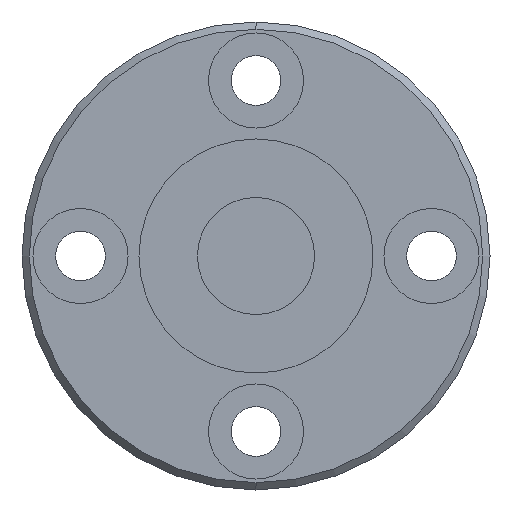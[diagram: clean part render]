
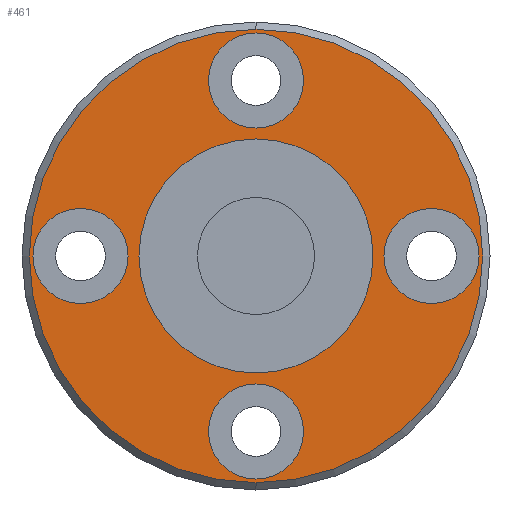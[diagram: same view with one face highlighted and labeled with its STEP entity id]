
A CAD part, left-side view. The second image highlights one B-rep face of the part: STEP entity #461.
In plain terms, the highlighted planar face has unit normal (-1, 0, 0).
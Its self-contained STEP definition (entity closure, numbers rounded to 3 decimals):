
#5 = DIRECTION ( 'NONE',  ( 0., 0., 1. ) ) ;
#29 = EDGE_CURVE ( 'NONE', #2390, #2367, #1250, .T. ) ;
#31 = CARTESIAN_POINT ( 'NONE',  ( 0., 12., 3.25 ) ) ;
#62 = AXIS2_PLACEMENT_3D ( 'NONE', #1221, #98, #324 ) ;
#98 = DIRECTION ( 'NONE',  ( -1., 0., 0. ) ) ;
#101 = CIRCLE ( 'NONE', #419, 3.25 ) ;
#107 = ORIENTED_EDGE ( 'NONE', *, *, #29, .F. ) ;
#131 = VERTEX_POINT ( 'NONE', #743 ) ;
#141 = AXIS2_PLACEMENT_3D ( 'NONE', #348, #754, #2266 ) ;
#145 = CIRCLE ( 'NONE', #2309, 8. ) ;
#181 = CIRCLE ( 'NONE', #62, 3.25 ) ;
#206 = AXIS2_PLACEMENT_3D ( 'NONE', #829, #2176, #796 ) ;
#301 = AXIS2_PLACEMENT_3D ( 'NONE', #1199, #1012, #2305 ) ;
#308 = EDGE_CURVE ( 'NONE', #2367, #2390, #145, .T. ) ;
#310 = VERTEX_POINT ( 'NONE', #1380 ) ;
#324 = DIRECTION ( 'NONE',  ( 0., 1., 0. ) ) ;
#348 = CARTESIAN_POINT ( 'NONE',  ( 0., 16., 0. ) ) ;
#354 = ORIENTED_EDGE ( 'NONE', *, *, #2365, .F. ) ;
#361 = CARTESIAN_POINT ( 'NONE',  ( 0., 0., 8.75 ) ) ;
#367 = VERTEX_POINT ( 'NONE', #361 ) ;
#419 = AXIS2_PLACEMENT_3D ( 'NONE', #2289, #1131, #1471 ) ;
#426 = DIRECTION ( 'NONE',  ( 0., 0., -1. ) ) ;
#438 = CARTESIAN_POINT ( 'NONE',  ( 0., 0., 15.25 ) ) ;
#461 = ADVANCED_FACE ( 'NONE', ( #529, #942, #2063, #1691, #2045, #1705 ), #1676, .F. ) ;
#464 = CARTESIAN_POINT ( 'NONE',  ( 0., -12., 0. ) ) ;
#511 = VERTEX_POINT ( 'NONE', #1295 ) ;
#518 = ORIENTED_EDGE ( 'NONE', *, *, #539, .F. ) ;
#529 = FACE_OUTER_BOUND ( 'NONE', #586, .T. ) ;
#539 = EDGE_CURVE ( 'NONE', #511, #1623, #1283, .T. ) ;
#551 = EDGE_CURVE ( 'NONE', #131, #2126, #2013, .T. ) ;
#570 = EDGE_LOOP ( 'NONE', ( #671, #107 ) ) ;
#586 = EDGE_LOOP ( 'NONE', ( #1218, #869 ) ) ;
#601 = CARTESIAN_POINT ( 'NONE',  ( 0., 0., 0. ) ) ;
#615 = CARTESIAN_POINT ( 'NONE',  ( 0., -12., -3.25 ) ) ;
#658 = AXIS2_PLACEMENT_3D ( 'NONE', #601, #2337, #1779 ) ;
#671 = ORIENTED_EDGE ( 'NONE', *, *, #308, .F. ) ;
#693 = VERTEX_POINT ( 'NONE', #438 ) ;
#702 = DIRECTION ( 'NONE',  ( -1., 0., 0. ) ) ;
#703 = EDGE_CURVE ( 'NONE', #2126, #131, #2054, .T. ) ;
#743 = CARTESIAN_POINT ( 'NONE',  ( 0., 0., -15.5 ) ) ;
#754 = DIRECTION ( 'NONE',  ( 1., 0., 0. ) ) ;
#796 = DIRECTION ( 'NONE',  ( 0., 0., 1. ) ) ;
#799 = EDGE_CURVE ( 'NONE', #1623, #511, #181, .T. ) ;
#801 = DIRECTION ( 'NONE',  ( 0., 0., -1. ) ) ;
#829 = CARTESIAN_POINT ( 'NONE',  ( 0., 12., 0. ) ) ;
#869 = ORIENTED_EDGE ( 'NONE', *, *, #703, .T. ) ;
#879 = CARTESIAN_POINT ( 'NONE',  ( 0., 12., -3.25 ) ) ;
#896 = CARTESIAN_POINT ( 'NONE',  ( 0., 12., 0. ) ) ;
#901 = CARTESIAN_POINT ( 'NONE',  ( 0., 0., 12. ) ) ;
#922 = EDGE_CURVE ( 'NONE', #693, #367, #1247, .T. ) ;
#927 = CARTESIAN_POINT ( 'NONE',  ( 0., 0., -8. ) ) ;
#942 = FACE_BOUND ( 'NONE', #1913, .T. ) ;
#988 = CIRCLE ( 'NONE', #1793, 3.25 ) ;
#995 = DIRECTION ( 'NONE',  ( 0., 0., 1. ) ) ;
#1012 = DIRECTION ( 'NONE',  ( -1., 0., 0. ) ) ;
#1031 = ORIENTED_EDGE ( 'NONE', *, *, #2092, .F. ) ;
#1045 = CIRCLE ( 'NONE', #1770, 3.25 ) ;
#1131 = DIRECTION ( 'NONE',  ( -1., 0., 0. ) ) ;
#1199 = CARTESIAN_POINT ( 'NONE',  ( 0., 0., -12. ) ) ;
#1205 = ORIENTED_EDGE ( 'NONE', *, *, #922, .F. ) ;
#1218 = ORIENTED_EDGE ( 'NONE', *, *, #551, .T. ) ;
#1221 = CARTESIAN_POINT ( 'NONE',  ( 0., 0., -12. ) ) ;
#1243 = CIRCLE ( 'NONE', #1810, 3.25 ) ;
#1247 = CIRCLE ( 'NONE', #1855, 3.25 ) ;
#1250 = CIRCLE ( 'NONE', #1578, 8. ) ;
#1255 = ORIENTED_EDGE ( 'NONE', *, *, #2380, .F. ) ;
#1283 = CIRCLE ( 'NONE', #301, 3.25 ) ;
#1291 = DIRECTION ( 'NONE',  ( -1., 0., 0. ) ) ;
#1295 = CARTESIAN_POINT ( 'NONE',  ( 0., 0., -15.25 ) ) ;
#1330 = EDGE_CURVE ( 'NONE', #2207, #1467, #988, .T. ) ;
#1380 = CARTESIAN_POINT ( 'NONE',  ( 0., -12., 3.25 ) ) ;
#1462 = DIRECTION ( 'NONE',  ( 0., 0., 1. ) ) ;
#1467 = VERTEX_POINT ( 'NONE', #31 ) ;
#1471 = DIRECTION ( 'NONE',  ( 0., 0., -1. ) ) ;
#1512 = DIRECTION ( 'NONE',  ( 0., -1., 0. ) ) ;
#1546 = EDGE_LOOP ( 'NONE', ( #2210, #518 ) ) ;
#1562 = CARTESIAN_POINT ( 'NONE',  ( 0., 0., 0. ) ) ;
#1566 = EDGE_CURVE ( 'NONE', #1467, #2207, #1916, .T. ) ;
#1568 = DIRECTION ( 'NONE',  ( -1., 0., 0. ) ) ;
#1578 = AXIS2_PLACEMENT_3D ( 'NONE', #2420, #702, #5 ) ;
#1623 = VERTEX_POINT ( 'NONE', #1794 ) ;
#1676 = PLANE ( 'NONE',  #141 ) ;
#1691 = FACE_BOUND ( 'NONE', #1546, .T. ) ;
#1705 = FACE_BOUND ( 'NONE', #570, .T. ) ;
#1743 = CARTESIAN_POINT ( 'NONE',  ( 0., 0., 15.5 ) ) ;
#1766 = DIRECTION ( 'NONE',  ( -1., 0., 0. ) ) ;
#1770 = AXIS2_PLACEMENT_3D ( 'NONE', #2372, #2416, #2264 ) ;
#1779 = DIRECTION ( 'NONE',  ( 0., 0., -1. ) ) ;
#1793 = AXIS2_PLACEMENT_3D ( 'NONE', #896, #2231, #1462 ) ;
#1794 = CARTESIAN_POINT ( 'NONE',  ( 0., 0., -8.75 ) ) ;
#1810 = AXIS2_PLACEMENT_3D ( 'NONE', #464, #1568, #426 ) ;
#1838 = EDGE_LOOP ( 'NONE', ( #1255, #1031 ) ) ;
#1851 = AXIS2_PLACEMENT_3D ( 'NONE', #2317, #1766, #801 ) ;
#1855 = AXIS2_PLACEMENT_3D ( 'NONE', #901, #1291, #1512 ) ;
#1867 = CARTESIAN_POINT ( 'NONE',  ( 0., 0., 8. ) ) ;
#1887 = ORIENTED_EDGE ( 'NONE', *, *, #1330, .F. ) ;
#1913 = EDGE_LOOP ( 'NONE', ( #1205, #354 ) ) ;
#1916 = CIRCLE ( 'NONE', #206, 3.25 ) ;
#1948 = DIRECTION ( 'NONE',  ( -1., 0., 0. ) ) ;
#1957 = EDGE_LOOP ( 'NONE', ( #1960, #1887 ) ) ;
#1960 = ORIENTED_EDGE ( 'NONE', *, *, #1566, .F. ) ;
#1983 = VERTEX_POINT ( 'NONE', #615 ) ;
#2013 = CIRCLE ( 'NONE', #658, 15.5 ) ;
#2045 = FACE_BOUND ( 'NONE', #1957, .T. ) ;
#2054 = CIRCLE ( 'NONE', #1851, 15.5 ) ;
#2063 = FACE_BOUND ( 'NONE', #1838, .T. ) ;
#2092 = EDGE_CURVE ( 'NONE', #1983, #310, #1243, .T. ) ;
#2126 = VERTEX_POINT ( 'NONE', #1743 ) ;
#2176 = DIRECTION ( 'NONE',  ( -1., 0., 0. ) ) ;
#2207 = VERTEX_POINT ( 'NONE', #879 ) ;
#2210 = ORIENTED_EDGE ( 'NONE', *, *, #799, .F. ) ;
#2231 = DIRECTION ( 'NONE',  ( -1., 0., 0. ) ) ;
#2264 = DIRECTION ( 'NONE',  ( 0., -1., 0. ) ) ;
#2266 = DIRECTION ( 'NONE',  ( 0., 0., -1. ) ) ;
#2289 = CARTESIAN_POINT ( 'NONE',  ( 0., -12., 0. ) ) ;
#2305 = DIRECTION ( 'NONE',  ( 0., 1., 0. ) ) ;
#2309 = AXIS2_PLACEMENT_3D ( 'NONE', #1562, #1948, #995 ) ;
#2317 = CARTESIAN_POINT ( 'NONE',  ( 0., 0., 0. ) ) ;
#2337 = DIRECTION ( 'NONE',  ( -1., 0., 0. ) ) ;
#2365 = EDGE_CURVE ( 'NONE', #367, #693, #1045, .T. ) ;
#2367 = VERTEX_POINT ( 'NONE', #1867 ) ;
#2372 = CARTESIAN_POINT ( 'NONE',  ( 0., 0., 12. ) ) ;
#2380 = EDGE_CURVE ( 'NONE', #310, #1983, #101, .T. ) ;
#2390 = VERTEX_POINT ( 'NONE', #927 ) ;
#2416 = DIRECTION ( 'NONE',  ( -1., 0., 0. ) ) ;
#2420 = CARTESIAN_POINT ( 'NONE',  ( 0., 0., 0. ) ) ;
